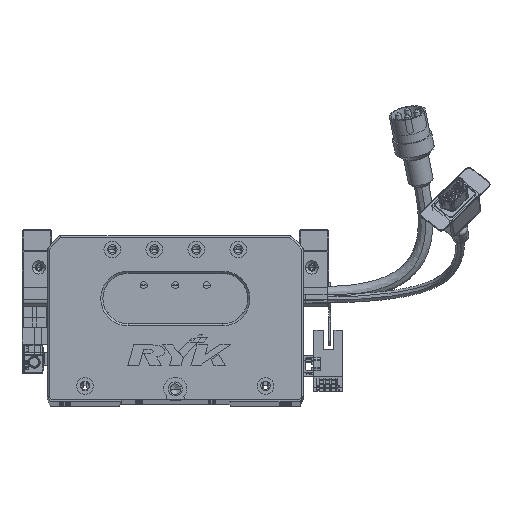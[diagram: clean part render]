
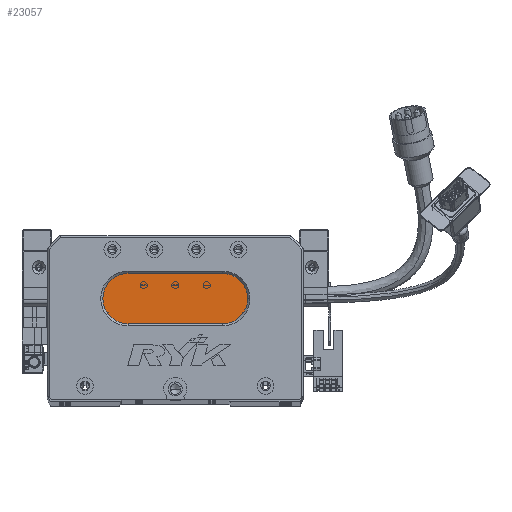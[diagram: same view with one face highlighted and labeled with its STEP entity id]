
A CAD part, top view. The second image highlights one B-rep face of the part: STEP entity #23057.
In plain terms, the highlighted planar face has unit normal (0, 0, 1) as drawn and (0, 0, -1) by its records, which use the part's own axes.
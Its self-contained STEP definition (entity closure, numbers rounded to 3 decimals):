
#902 = VERTEX_POINT ( 'NONE', #62819 ) ;
#2672 = CARTESIAN_POINT ( 'NONE',  ( 83.5, 36., 13. ) ) ;
#7098 = ORIENTED_EDGE ( 'NONE', *, *, #23528, .T. ) ;
#7219 = DIRECTION ( 'NONE',  ( 0., 0., -1. ) ) ;
#7321 = DIRECTION ( 'NONE',  ( 0., 0., -1. ) ) ;
#7406 = VERTEX_POINT ( 'NONE', #56233 ) ;
#7850 = DIRECTION ( 'NONE',  ( -1., 0., 0. ) ) ;
#9360 = AXIS2_PLACEMENT_3D ( 'NONE', #46716, #47014, #18154 ) ;
#12785 = AXIS2_PLACEMENT_3D ( 'NONE', #48411, #7219, #48691 ) ;
#15810 = FACE_OUTER_BOUND ( 'NONE', #28601, .T. ) ;
#16313 = AXIS2_PLACEMENT_3D ( 'NONE', #48804, #7321, #81740 ) ;
#16832 = DIRECTION ( 'NONE',  ( 0., 0., -1. ) ) ;
#18154 = DIRECTION ( 'NONE',  ( -1., 0., 0. ) ) ;
#22698 = CARTESIAN_POINT ( 'NONE',  ( 83.5, 48., 13. ) ) ;
#23054 = CARTESIAN_POINT ( 'NONE',  ( 38.5, 36., 13. ) ) ;
#23057 = ADVANCED_FACE ( 'NONE', ( #15810 ), #82518, .T. ) ;
#23528 = EDGE_CURVE ( 'NONE', #60157, #7406, #42670, .T. ) ;
#27702 = ORIENTED_EDGE ( 'NONE', *, *, #48401, .T. ) ;
#28436 = DIRECTION ( 'NONE',  ( 1., 0., 0. ) ) ;
#28601 = EDGE_LOOP ( 'NONE', ( #68509, #71228, #35043, #7098, #27702 ) ) ;
#31815 = CIRCLE ( 'NONE', #79067, 12. ) ;
#32649 = LINE ( 'NONE', #49049, #48710 ) ;
#32812 = DIRECTION ( 'NONE',  ( -1., 0., 0. ) ) ;
#35043 = ORIENTED_EDGE ( 'NONE', *, *, #64176, .T. ) ;
#35909 = EDGE_CURVE ( 'NONE', #902, #43516, #31815, .T. ) ;
#42670 = CIRCLE ( 'NONE', #9360, 12. ) ;
#43516 = VERTEX_POINT ( 'NONE', #2672 ) ;
#46716 = CARTESIAN_POINT ( 'NONE',  ( 38.5, 48., 13. ) ) ;
#47014 = DIRECTION ( 'NONE',  ( 0., 0., -1. ) ) ;
#48401 = EDGE_CURVE ( 'NONE', #7406, #902, #87661, .T. ) ;
#48411 = CARTESIAN_POINT ( 'NONE',  ( 83.5, 48., 13. ) ) ;
#48691 = DIRECTION ( 'NONE',  ( -1., 0., 0. ) ) ;
#48710 = VECTOR ( 'NONE', #7850, 1000. ) ;
#48804 = CARTESIAN_POINT ( 'NONE',  ( 38.5, 48., 13. ) ) ;
#49049 = CARTESIAN_POINT ( 'NONE',  ( 83.5, 36., 13. ) ) ;
#56233 = CARTESIAN_POINT ( 'NONE',  ( 38.5, 60., 13. ) ) ;
#57524 = CIRCLE ( 'NONE', #16313, 12. ) ;
#60157 = VERTEX_POINT ( 'NONE', #85816 ) ;
#62819 = CARTESIAN_POINT ( 'NONE',  ( 83.5, 60., 13. ) ) ;
#63231 = CARTESIAN_POINT ( 'NONE',  ( 83.5, 60., 13. ) ) ;
#64176 = EDGE_CURVE ( 'NONE', #86873, #60157, #57524, .T. ) ;
#67361 = VECTOR ( 'NONE', #28436, 1000. ) ;
#68509 = ORIENTED_EDGE ( 'NONE', *, *, #35909, .T. ) ;
#71228 = ORIENTED_EDGE ( 'NONE', *, *, #73302, .T. ) ;
#73302 = EDGE_CURVE ( 'NONE', #43516, #86873, #32649, .T. ) ;
#79067 = AXIS2_PLACEMENT_3D ( 'NONE', #22698, #16832, #32812 ) ;
#81740 = DIRECTION ( 'NONE',  ( -1., 0., 0. ) ) ;
#82518 = PLANE ( 'NONE',  #12785 ) ;
#85816 = CARTESIAN_POINT ( 'NONE',  ( 26.5, 48., 13. ) ) ;
#86873 = VERTEX_POINT ( 'NONE', #23054 ) ;
#87661 = LINE ( 'NONE', #63231, #67361 ) ;
